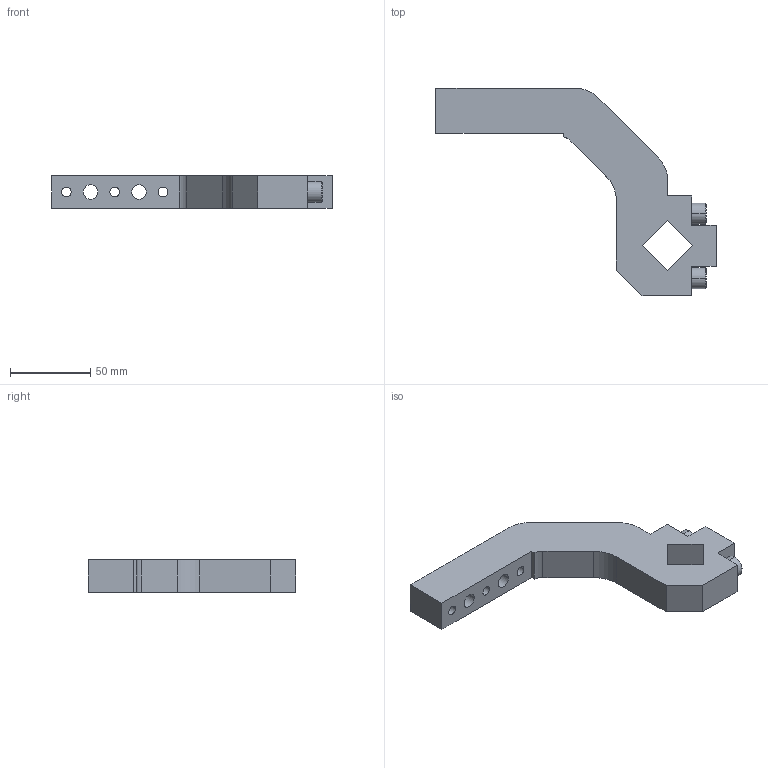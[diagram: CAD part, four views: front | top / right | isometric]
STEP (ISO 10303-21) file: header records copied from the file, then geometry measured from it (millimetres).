
FILE_DESCRIPTION((''),'2;1');
FILE_NAME('S:\Matthew\Step Files\XM Clamp Arms\XJ63-03.stp','2006-06-28T08:14:13',('Matthew'),(''),'Autodesk Inventor 8','Autodesk Inventor 8','');
FILE_SCHEMA(('AUTOMOTIVE_DESIGN { 1 0 10303 214 1 1 1 1 }'));
Length unit declared in the file: millimetre
Products named in the file (1): XJ63-03
Bounding box: 174 x 129 x 20 mm (x, y, z)
Volume: 142329 mm3; surface area: 30724.5 mm2
Topology: 1 solids, 1 shells, 46 faces, 122 edges, 80 vertices
Faces by surface type: plane 23, cylinder 16, bspline 5, cone 2
Entity records: 1533 total; most frequent: CARTESIAN_POINT 320, DIRECTION 246, ORIENTED_EDGE 244, EDGE_CURVE 122, AXIS2_PLACEMENT_3D 82, VECTOR 82, LINE 82, VERTEX_POINT 80
